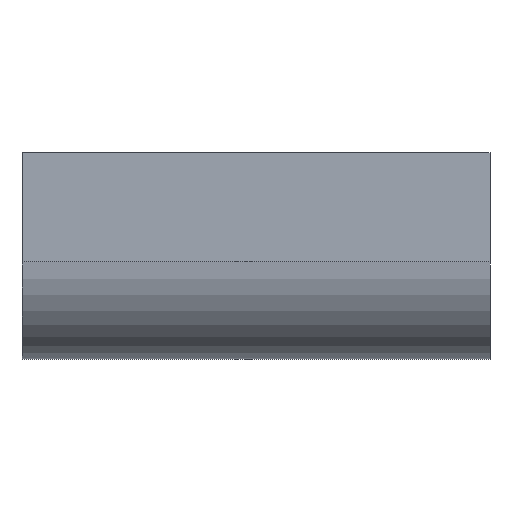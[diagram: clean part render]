
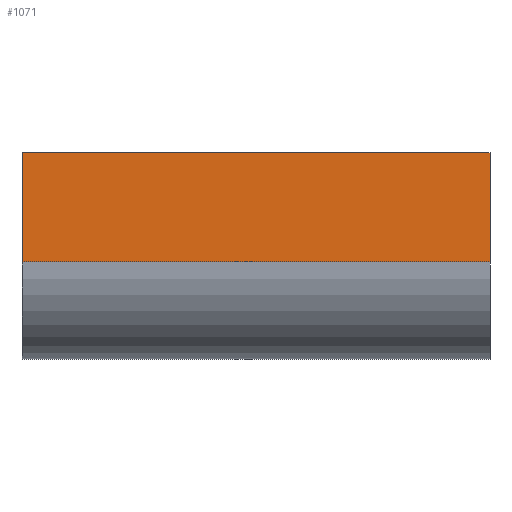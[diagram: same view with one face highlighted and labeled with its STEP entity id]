
A CAD part, front view. The second image highlights one B-rep face of the part: STEP entity #1071.
In plain terms, the highlighted planar face has unit normal (0, -1, 0).
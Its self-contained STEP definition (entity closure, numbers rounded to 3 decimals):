
#15 = CARTESIAN_POINT ( 'NONE',  ( 300., -100., -140. ) ) ;
#26 = ORIENTED_EDGE ( 'NONE', *, *, #1152, .F. ) ;
#28 = LINE ( 'NONE', #816, #1150 ) ;
#36 = CARTESIAN_POINT ( 'NONE',  ( -300., -100., -140. ) ) ;
#40 = LINE ( 'NONE', #15, #422 ) ;
#215 = CARTESIAN_POINT ( 'NONE',  ( 300., -100., -140. ) ) ;
#279 = CARTESIAN_POINT ( 'NONE',  ( 300., -100., -140. ) ) ;
#288 = VECTOR ( 'NONE', #372, 1000. ) ;
#372 = DIRECTION ( 'NONE',  ( -1., 0., 0. ) ) ;
#398 = ORIENTED_EDGE ( 'NONE', *, *, #1033, .T. ) ;
#422 = VECTOR ( 'NONE', #1205, 1000. ) ;
#517 = DIRECTION ( 'NONE',  ( 0., 0., 1. ) ) ;
#535 = DIRECTION ( 'NONE',  ( 0., 0., -1. ) ) ;
#601 = LINE ( 'NONE', #1374, #1351 ) ;
#607 = EDGE_LOOP ( 'NONE', ( #667, #26, #1289, #398 ) ) ;
#621 = CARTESIAN_POINT ( 'NONE',  ( 300., -100., 0. ) ) ;
#667 = ORIENTED_EDGE ( 'NONE', *, *, #1529, .T. ) ;
#717 = EDGE_CURVE ( 'NONE', #1581, #1254, #40, .T. ) ;
#760 = VERTEX_POINT ( 'NONE', #779 ) ;
#779 = CARTESIAN_POINT ( 'NONE',  ( -300., -100., 0. ) ) ;
#816 = CARTESIAN_POINT ( 'NONE',  ( -300., -100., -140. ) ) ;
#820 = AXIS2_PLACEMENT_3D ( 'NONE', #279, #1588, #517 ) ;
#827 = PLANE ( 'NONE',  #820 ) ;
#954 = FACE_OUTER_BOUND ( 'NONE', #607, .T. ) ;
#977 = DIRECTION ( 'NONE',  ( -1., 0., 0. ) ) ;
#1033 = EDGE_CURVE ( 'NONE', #1581, #760, #1270, .T. ) ;
#1071 = ADVANCED_FACE ( 'NONE', ( #954 ), #827, .F. ) ;
#1150 = VECTOR ( 'NONE', #535, 1000. ) ;
#1152 = EDGE_CURVE ( 'NONE', #1254, #1440, #601, .T. ) ;
#1205 = DIRECTION ( 'NONE',  ( 0., 0., -1. ) ) ;
#1254 = VERTEX_POINT ( 'NONE', #215 ) ;
#1256 = CARTESIAN_POINT ( 'NONE',  ( 300., -100., 0. ) ) ;
#1270 = LINE ( 'NONE', #621, #288 ) ;
#1289 = ORIENTED_EDGE ( 'NONE', *, *, #717, .F. ) ;
#1351 = VECTOR ( 'NONE', #977, 1000. ) ;
#1374 = CARTESIAN_POINT ( 'NONE',  ( 300., -100., -140. ) ) ;
#1440 = VERTEX_POINT ( 'NONE', #36 ) ;
#1529 = EDGE_CURVE ( 'NONE', #760, #1440, #28, .T. ) ;
#1581 = VERTEX_POINT ( 'NONE', #1256 ) ;
#1588 = DIRECTION ( 'NONE',  ( 0., 1., 0. ) ) ;
